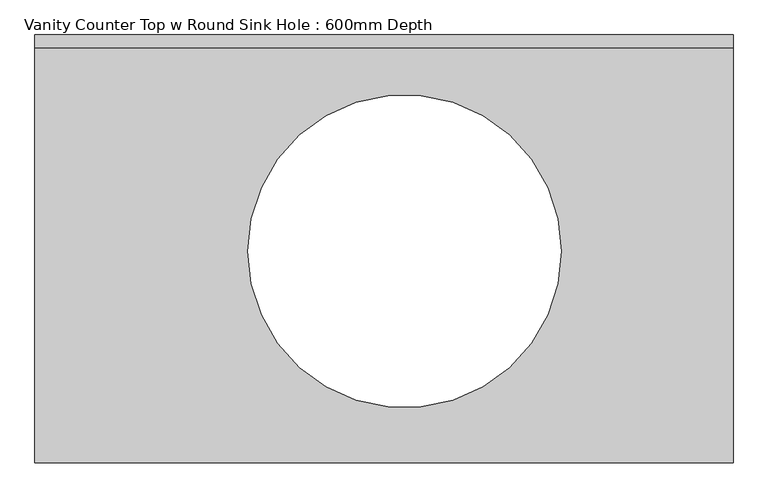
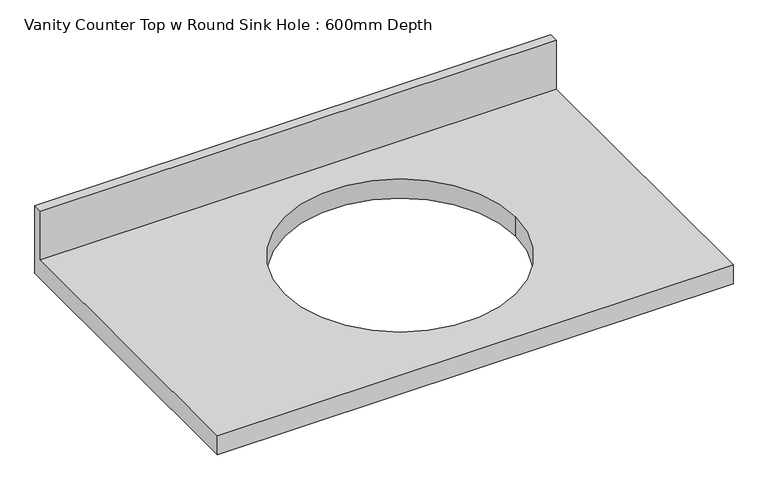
"""IFC4 building model written with IfcOpenShell, lengths in millimetres: furniture geometry, Vanity Counter Top w Round Sink Hole : 600mm Depth."""

from ifc_helpers import new_model, si_unit, frame, origin, place, context, project, spatial, polyline, circle_curve, source, transform, mapped, element, save
from ifc_brep_helpers import plane_surface, revolved_surface, advanced_brep


def vanity_counter_top_w_round_sink_hole_600mm_depth_7d531bef(model_context):
    return source(origin(), model_context, "Body", "AdvancedBrep", [
        advanced_brep(
        [(-1327.4622951, 0.0, 851.6), (-1327.4622951, -19.05, 851.6), (-307.4622951, -19.05, 851.6), (-307.4622951, 0.0, 851.6), (-1327.4622951, 0.0, 710.0), (-1327.4622951, -625.0, 710.0), (-1327.4622951, -625.0, 750.0), (-1327.4622951, -19.05, 750.0), (-307.4622951, -19.05, 750.0), (-307.4622951, -625.0, 750.0), (-307.4622951, -625.0, 710.0), (-307.4622951, 0.0, 710.0), (-558.7622951, -316.0, 750.0), (-558.7622951, -316.0, 710.0), (-1016.1622951, -316.0, 710.0), (-1016.1622951, -316.0, 750.0)],
        [
            (0, 1),
            (1, 2),
            (2, 3),
            (3, 0),
            (0, 4),
            (4, 5),
            (5, 6),
            (6, 7),
            (7, 1),
            (7, 8),
            (8, 2),
            (8, 9),
            (9, 10),
            (10, 11),
            (11, 3),
            (11, 4),
            (12, 13),
            (13, 14, circle_curve(frame((-787.4622951, -316.0, 710.0), z_axis=(0.0, 0.0, -1.0), x_axis=(1.0, 0.0, 0.0)), 228.7)),
            (14, 15),
            (15, 12, circle_curve(frame((-787.4622951, -316.0, 750.0), z_axis=(0.0, 0.0, 1.0), x_axis=(1.0, 0.0, 0.0)), 228.7)),
            (12, 15, circle_curve(frame((-787.4622951, -316.0, 750.0), z_axis=(0.0, 0.0, 1.0), x_axis=(1.0, 0.0, 0.0)), 228.7)),
            (14, 13, circle_curve(frame((-787.4622951, -316.0, 710.0), z_axis=(0.0, 0.0, -1.0), x_axis=(1.0, 0.0, 0.0)), 228.7)),
            (6, 9),
            (10, 5),
        ],
        [
            plane_surface(frame((-1327.4622951, 0.0, 851.6), z_axis=(0.0, 0.0, 1.0), x_axis=(0.0, -1.0, 0.0))),
            plane_surface(frame((-1327.4622951, 0.0, 851.6), z_axis=(-1.0, 0.0, 0.0), x_axis=(0.0, 0.0, -1.0))),
            plane_surface(frame((-1327.4622951, -19.05, 851.6), z_axis=(0.0, -1.0, 0.0), x_axis=(0.0, 0.0, -1.0))),
            plane_surface(frame((-307.4622951, -19.05, 851.6), z_axis=(1.0, 0.0, 0.0), x_axis=(0.0, 0.0, -1.0))),
            plane_surface(frame((-307.4622951, 0.0, 851.6), z_axis=(0.0, 1.0, 0.0), x_axis=(0.0, 0.0, -1.0))),
            revolved_surface(polyline([(-558.7622951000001, -316.0, 750.0), (-558.7622951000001, -316.0, 710.0)]), (-787.4622951, -316.0, 710.0), (0.0, 0.0, 1.0)),
            plane_surface(frame((-1327.4622951, 0.0, 750.0), z_axis=(0.0, 0.0, 1.0), x_axis=(-1.0, 0.0, 0.0))),
            plane_surface(frame((-1327.4622951, 0.0, 710.0), z_axis=(0.0, 0.0, -1.0), x_axis=(1.0, 0.0, 0.0))),
            plane_surface(frame((-1327.4622951, -625.0, 750.0), z_axis=(0.0, -1.0, 0.0), x_axis=(0.0, 0.0, -1.0))),
        ],
        [
            (0, [[1, 2, 3, 4]]),
            (1, [[-1, 5, 6, 7, 8, 9]]),
            (2, [[-2, -9, 10, 11]]),
            (3, [[-3, -11, 12, 13, 14, 15]]),
            (4, [[-4, -15, 16, -5]]),
            (5, [[17, 18, 19, 20]]),
            (5, [[-17, 21, -19, 22]]),
            (6, [[23, -12, -10, -8], [-20, -21]]),
            (7, [[-14, 24, -6, -16], [-18, -22]]),
            (8, [[-23, -7, -24, -13]]),
        ],
    ),
    ])


if __name__ == "__main__":
    model = new_model("IFC4")
    model_context = context("Model", 3, world=origin())
    ifc_project = project(units=[si_unit("LENGTHUNIT", "METRE", prefix="MILLI")], contexts=[model_context])
    site = spatial("IfcSite", under=ifc_project)
    building = spatial("IfcBuilding", under=site)
    placement = place(None, origin())
    vanity_counter_top_w_round_sink_hole_600mm_depth_shape = vanity_counter_top_w_round_sink_hole_600mm_depth_7d531bef(model_context)
    element("IfcFurniture", 1, ObjectType="Vanity Counter Top w Round Sink Hole : 600mm Depth", at=placement, inside=building, context=model_context, shape_type="MappedRepresentation", body=[
        mapped(vanity_counter_top_w_round_sink_hole_600mm_depth_shape, transform((0.0, 0.0, 0.0), x_axis=(1.0, 0.0, 0.0), y_axis=(0.0, 1.0, 0.0), z_axis=(0.0, 0.0, 1.0))),
    ])
    save(model, "model.ifc")
